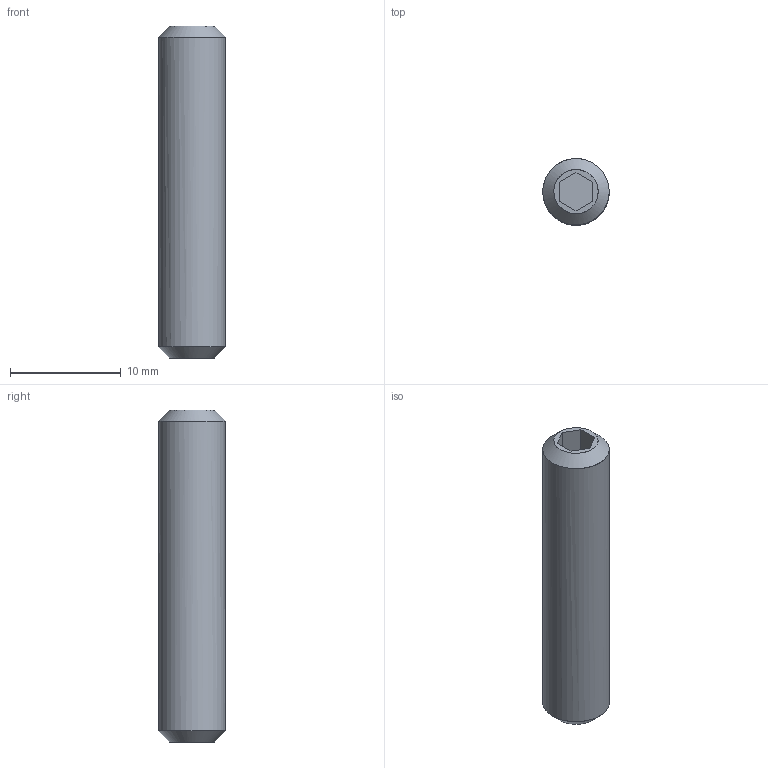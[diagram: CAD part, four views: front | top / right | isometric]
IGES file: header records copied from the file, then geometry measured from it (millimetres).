
Global section: file name: E:\UnigraphicsGraphicData\MISUMI_MOLD-PARTS\NX\3d_ai6_00909_r00.igs; native system: NX V5.0; preprocessor: UGS NX IGES V5.0; author: MISUMI; date: 20101115.182440; units: millimetre
Bounding box: 6 x 6 x 30 mm (x, y, z)
Surface area: 660.9 mm2 (no closed solid volume)
Topology: 0 solids, 0 shells, 19 faces, 101 edges, 96 vertices
Faces by surface type: bspline 19
